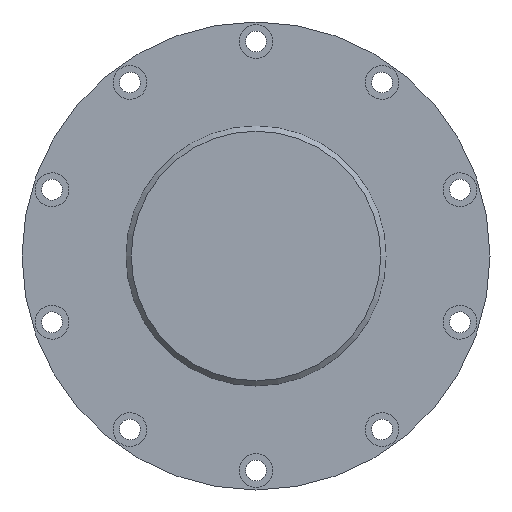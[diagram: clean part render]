
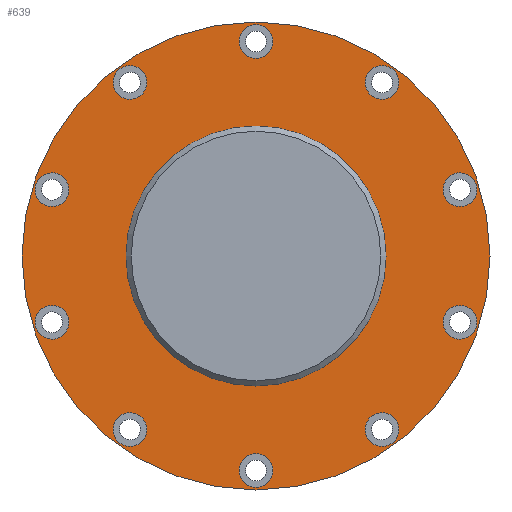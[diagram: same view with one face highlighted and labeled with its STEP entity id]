
A CAD part, front view. The second image highlights one B-rep face of the part: STEP entity #639.
In plain terms, the highlighted planar face has unit normal (0, -1, 0).
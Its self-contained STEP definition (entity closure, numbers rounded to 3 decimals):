
#100=FACE_BOUND('',#206,.T.);
#101=FACE_BOUND('',#207,.T.);
#102=FACE_BOUND('',#208,.T.);
#103=FACE_BOUND('',#209,.T.);
#104=FACE_BOUND('',#210,.T.);
#105=FACE_BOUND('',#211,.T.);
#106=FACE_BOUND('',#212,.T.);
#107=FACE_BOUND('',#213,.T.);
#108=FACE_BOUND('',#214,.T.);
#109=FACE_BOUND('',#215,.T.);
#110=FACE_BOUND('',#216,.T.);
#153=FACE_OUTER_BOUND('',#205,.T.);
#205=EDGE_LOOP('',(#532));
#206=EDGE_LOOP('',(#533));
#207=EDGE_LOOP('',(#534));
#208=EDGE_LOOP('',(#535));
#209=EDGE_LOOP('',(#536));
#210=EDGE_LOOP('',(#537));
#211=EDGE_LOOP('',(#538));
#212=EDGE_LOOP('',(#539));
#213=EDGE_LOOP('',(#540));
#214=EDGE_LOOP('',(#541));
#215=EDGE_LOOP('',(#542));
#216=EDGE_LOOP('',(#543));
#242=CIRCLE('',#675,6.5);
#246=CIRCLE('',#682,6.5);
#250=CIRCLE('',#689,6.5);
#254=CIRCLE('',#696,6.5);
#258=CIRCLE('',#703,6.5);
#262=CIRCLE('',#710,6.5);
#266=CIRCLE('',#717,6.5);
#270=CIRCLE('',#724,6.5);
#274=CIRCLE('',#731,6.5);
#278=CIRCLE('',#738,6.5);
#280=CIRCLE('',#742,90.);
#281=CIRCLE('',#743,50.);
#299=VERTEX_POINT('',#1001);
#303=VERTEX_POINT('',#1014);
#307=VERTEX_POINT('',#1027);
#311=VERTEX_POINT('',#1040);
#315=VERTEX_POINT('',#1053);
#319=VERTEX_POINT('',#1066);
#323=VERTEX_POINT('',#1079);
#327=VERTEX_POINT('',#1092);
#331=VERTEX_POINT('',#1105);
#335=VERTEX_POINT('',#1118);
#337=VERTEX_POINT('',#1126);
#338=VERTEX_POINT('',#1128);
#353=EDGE_CURVE('',#299,#299,#242,.T.);
#359=EDGE_CURVE('',#303,#303,#246,.T.);
#365=EDGE_CURVE('',#307,#307,#250,.T.);
#371=EDGE_CURVE('',#311,#311,#254,.T.);
#377=EDGE_CURVE('',#315,#315,#258,.T.);
#383=EDGE_CURVE('',#319,#319,#262,.T.);
#389=EDGE_CURVE('',#323,#323,#266,.T.);
#395=EDGE_CURVE('',#327,#327,#270,.T.);
#401=EDGE_CURVE('',#331,#331,#274,.T.);
#407=EDGE_CURVE('',#335,#335,#278,.T.);
#411=EDGE_CURVE('',#337,#337,#280,.T.);
#412=EDGE_CURVE('',#338,#338,#281,.T.);
#532=ORIENTED_EDGE('',*,*,#411,.T.);
#533=ORIENTED_EDGE('',*,*,#353,.T.);
#534=ORIENTED_EDGE('',*,*,#359,.T.);
#535=ORIENTED_EDGE('',*,*,#365,.T.);
#536=ORIENTED_EDGE('',*,*,#371,.T.);
#537=ORIENTED_EDGE('',*,*,#377,.T.);
#538=ORIENTED_EDGE('',*,*,#383,.T.);
#539=ORIENTED_EDGE('',*,*,#389,.T.);
#540=ORIENTED_EDGE('',*,*,#395,.T.);
#541=ORIENTED_EDGE('',*,*,#401,.T.);
#542=ORIENTED_EDGE('',*,*,#407,.T.);
#543=ORIENTED_EDGE('',*,*,#412,.F.);
#604=PLANE('',#741);
#639=ADVANCED_FACE('',(#153,#100,#101,#102,#103,#104,#105,#106,#107,#108,
#109,#110),#604,.T.);
#675=AXIS2_PLACEMENT_3D('',#1002,#780,#781);
#682=AXIS2_PLACEMENT_3D('',#1015,#796,#797);
#689=AXIS2_PLACEMENT_3D('',#1028,#812,#813);
#696=AXIS2_PLACEMENT_3D('',#1041,#828,#829);
#703=AXIS2_PLACEMENT_3D('',#1054,#844,#845);
#710=AXIS2_PLACEMENT_3D('',#1067,#860,#861);
#717=AXIS2_PLACEMENT_3D('',#1080,#876,#877);
#724=AXIS2_PLACEMENT_3D('',#1093,#892,#893);
#731=AXIS2_PLACEMENT_3D('',#1106,#908,#909);
#738=AXIS2_PLACEMENT_3D('',#1119,#924,#925);
#741=AXIS2_PLACEMENT_3D('',#1125,#932,#933);
#742=AXIS2_PLACEMENT_3D('',#1127,#934,#935);
#743=AXIS2_PLACEMENT_3D('',#1129,#936,#937);
#780=DIRECTION('center_axis',(0.,1.,0.));
#781=DIRECTION('ref_axis',(0.809,0.,-0.588));
#796=DIRECTION('center_axis',(0.,1.,0.));
#797=DIRECTION('ref_axis',(0.309,0.,-0.951));
#812=DIRECTION('center_axis',(0.,1.,0.));
#813=DIRECTION('ref_axis',(-0.309,0.,-0.951));
#828=DIRECTION('center_axis',(0.,1.,0.));
#829=DIRECTION('ref_axis',(-0.809,0.,-0.588));
#844=DIRECTION('center_axis',(0.,1.,0.));
#845=DIRECTION('ref_axis',(-1.,0.,0.));
#860=DIRECTION('center_axis',(0.,1.,0.));
#861=DIRECTION('ref_axis',(-0.809,0.,0.588));
#876=DIRECTION('center_axis',(0.,1.,0.));
#877=DIRECTION('ref_axis',(-0.309,0.,0.951));
#892=DIRECTION('center_axis',(0.,1.,0.));
#893=DIRECTION('ref_axis',(0.309,0.,0.951));
#908=DIRECTION('center_axis',(0.,1.,0.));
#909=DIRECTION('ref_axis',(0.809,0.,0.588));
#924=DIRECTION('center_axis',(0.,1.,0.));
#925=DIRECTION('ref_axis',(1.,0.,0.));
#932=DIRECTION('center_axis',(0.,-1.,0.));
#933=DIRECTION('ref_axis',(0.,0.,-1.));
#934=DIRECTION('center_axis',(0.,-1.,0.));
#935=DIRECTION('ref_axis',(1.,0.,0.));
#936=DIRECTION('center_axis',(0.,-1.,0.));
#937=DIRECTION('ref_axis',(1.,0.,0.));
#1001=CARTESIAN_POINT('',(43.234,-5.,70.565));
#1002=CARTESIAN_POINT('Origin',(48.492,-5.,66.744));
#1014=CARTESIAN_POINT('',(76.454,-5.,31.676));
#1015=CARTESIAN_POINT('Origin',(78.462,-5.,25.494));
#1027=CARTESIAN_POINT('',(80.471,-5.,-19.312));
#1028=CARTESIAN_POINT('Origin',(78.462,-5.,-25.494));
#1040=CARTESIAN_POINT('',(53.751,-5.,-62.923));
#1041=CARTESIAN_POINT('Origin',(48.492,-5.,-66.744));
#1053=CARTESIAN_POINT('',(6.5,-5.,-82.5));
#1054=CARTESIAN_POINT('Origin',(0.,-5.,-82.5));
#1066=CARTESIAN_POINT('',(-43.234,-5.,-70.565));
#1067=CARTESIAN_POINT('Origin',(-48.492,-5.,-66.744));
#1079=CARTESIAN_POINT('',(-76.454,-5.,-31.676));
#1080=CARTESIAN_POINT('Origin',(-78.462,-5.,-25.494));
#1092=CARTESIAN_POINT('',(-80.471,-5.,19.312));
#1093=CARTESIAN_POINT('Origin',(-78.462,-5.,25.494));
#1105=CARTESIAN_POINT('',(-53.751,-5.,62.923));
#1106=CARTESIAN_POINT('Origin',(-48.492,-5.,66.744));
#1118=CARTESIAN_POINT('',(-6.5,-5.,82.5));
#1119=CARTESIAN_POINT('Origin',(0.,-5.,82.5));
#1125=CARTESIAN_POINT('Origin',(50.,-5.,0.));
#1126=CARTESIAN_POINT('',(-90.,-5.,0.));
#1127=CARTESIAN_POINT('Origin',(0.,-5.,0.));
#1128=CARTESIAN_POINT('',(-50.,-5.,0.));
#1129=CARTESIAN_POINT('Origin',(0.,-5.,0.));
